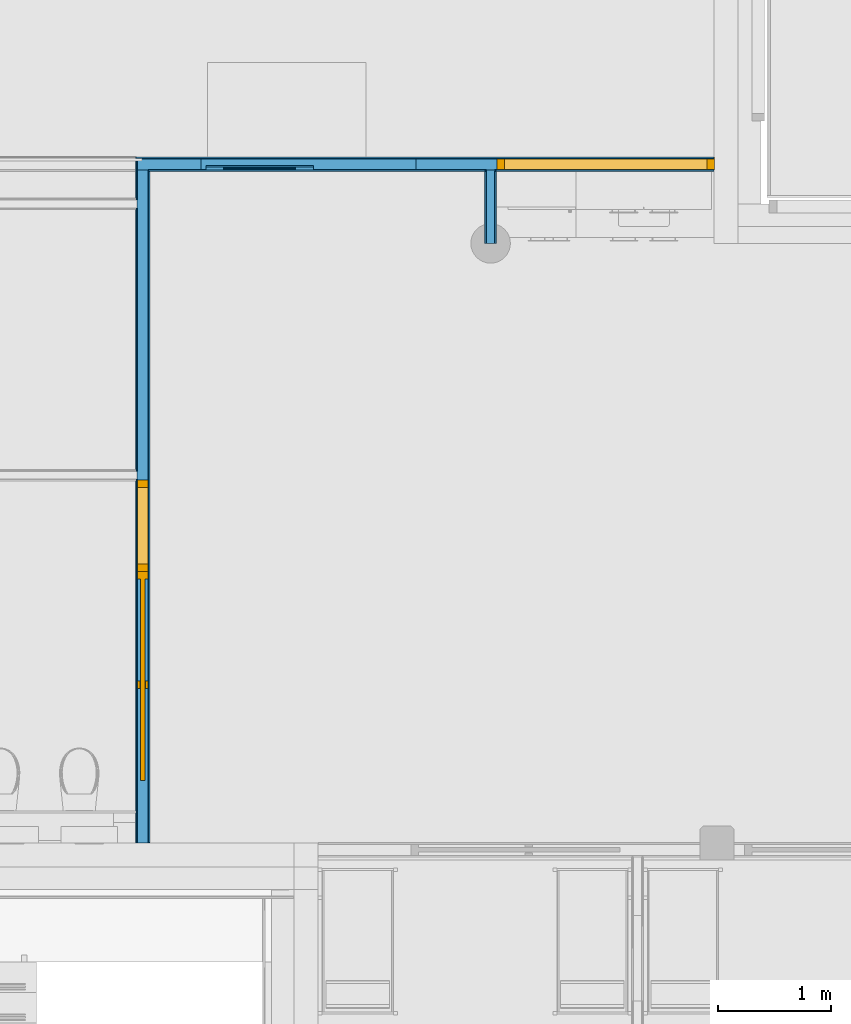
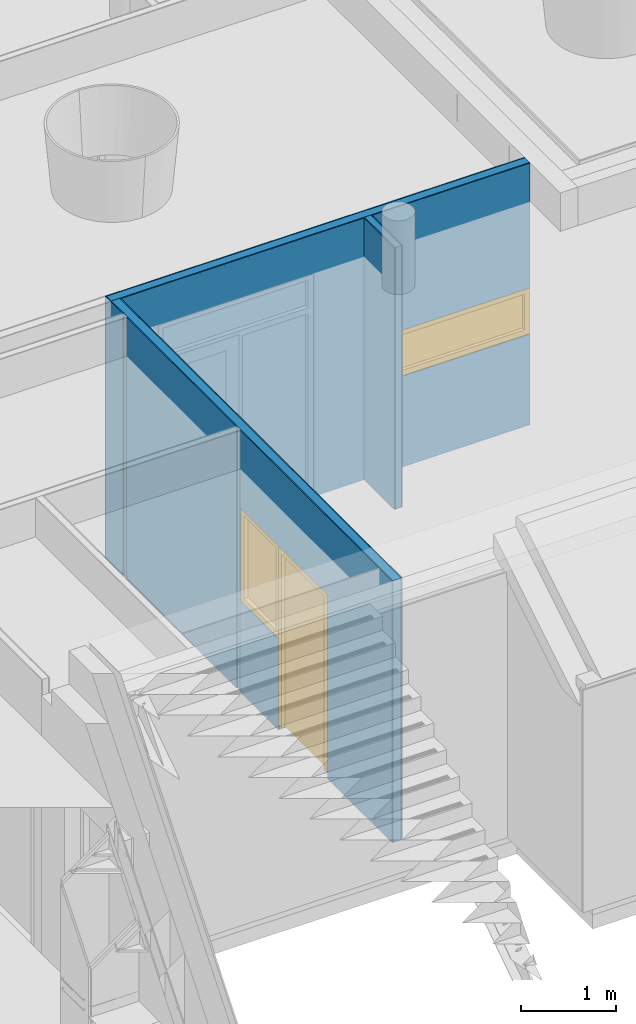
# One storey, part 73 of 167: 12 building element parts, 2 windows, 1 door, 4 openings, 4 elements without a shape of their own.
"""IFC2X3 building model written with IfcOpenShell, lengths in millimetres."""

from ifc_helpers import new_model, entity, si_unit, converted_unit, derived_unit, money_unit, direction, frame, origin_with_axes, place, context, subcontext, project, spatial, open_shell, faceted_brep, surface_model, material, type_object, element, fill, aggregate, save


model = new_model("IFC2X3")

# Units and contexts
model_context = context("Model", 3, precision=0.01, world=origin_with_axes(), true_north=direction((0.0, 1.0)))
plan_context = context("Plan", 3, precision=0.01, world=origin_with_axes(), true_north=direction((0.0, 1.0)))
body_context = subcontext(model_context, "Body", "Model", "MODEL_VIEW")
ifc_project = project(units=[si_unit("LENGTHUNIT", "METRE", prefix="MILLI"), si_unit("AREAUNIT", "SQUARE_METRE"), si_unit("VOLUMEUNIT", "CUBIC_METRE"), converted_unit("PLANEANGLEUNIT", "DEGREE", entity("IfcPlaneAngleMeasure", 0.0174532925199), si_unit("PLANEANGLEUNIT", "RADIAN"), dimensions=[0, 0, 0, 0, 0, 0, 0]), si_unit("SOLIDANGLEUNIT", "STERADIAN"), money_unit("EUR"), converted_unit("TIMEUNIT", "Year", entity("IfcTimeMeasure", 31556926.0), si_unit("TIMEUNIT", "SECOND"), dimensions=[0, 0, 1, 0, 0, 0, 0]), si_unit("MASSUNIT", "GRAM", prefix="KILO"), si_unit("THERMODYNAMICTEMPERATUREUNIT", "DEGREE_CELSIUS"), si_unit("LUMINOUSINTENSITYUNIT", "LUMEN"), si_unit("ENERGYUNIT", "JOULE", prefix="MEGA"), derived_unit("THERMALCONDUCTANCEUNIT", [(si_unit("POWERUNIT", "WATT"), 1), (si_unit("LENGTHUNIT", "METRE"), -1), (si_unit("THERMODYNAMICTEMPERATUREUNIT", "KELVIN"), -1)]), derived_unit("SPECIFICHEATCAPACITYUNIT", [(si_unit("ENERGYUNIT", "JOULE"), 1), (si_unit("MASSUNIT", "GRAM", prefix="KILO"), -1), (si_unit("THERMODYNAMICTEMPERATUREUNIT", "KELVIN"), -1)]), derived_unit("MASSDENSITYUNIT", [(si_unit("MASSUNIT", "GRAM", prefix="KILO"), 1), (si_unit("VOLUMEUNIT", "CUBIC_METRE"), -1)])], contexts=[model_context, plan_context])

# Site, building, storey
site_placement = place(None, origin_with_axes())
site = spatial("IfcSite", under=ifc_project, at=site_placement, Name="Site", CompositionType="ELEMENT")
building_placement = place(site_placement, origin_with_axes())
building = spatial("IfcBuilding", under=site, at=building_placement, Name="Naam gebouw", CompositionType="ELEMENT")
storey_placement = place(building_placement, origin_with_axes())
storey = spatial("IfcBuildingStorey", under=building, at=storey_placement, Name="Begane grond", CompositionType="ELEMENT", Elevation=0.0)

# Window
window_style = type_object("IfcWindowStyle", Name="R1 24", ConstructionType="NOTDEFINED", OperationType="SINGLE_PANEL", ParameterTakesPrecedence=False, Sizeable=False)
wall_1_placement = place(storey_placement, frame((38189.0, 37300.0, -100.0), z_axis=(0.0, 0.0, 1.0), x_axis=(-1.0, 0.0, 0.0)))
opening_1_placement = place(wall_1_placement, frame((1171.37399409, 0.0, 1200.0), z_axis=(0.0, 0.0, 1.0), x_axis=(1.0, 0.0, 0.0)))
window_1_placement = place(opening_1_placement, frame((-962.5, 0.0, 0.0), z_axis=(0.0, 0.0, 1.0), x_axis=(1.0, 0.0, 0.0)))
window_1 = element("IfcWindow", 1, at=window_1_placement, inside=storey, type_object=window_style, Name="31_Raam_Hi-49", ObjectType="WINDOW", OverallHeight=595.0, OverallWidth=1925.0, context=body_context, shape_type="SurfaceModel", body=[
    faceted_brep([(1858.0, -62.5, 528.0), (1925.0, -62.5, 528.0), (1925.0, 51.5, 528.0), (1858.0, 51.5, 528.0), (1858.0, -62.5, 67.0), (1925.0, -62.5, 67.0), (1925.0, 51.5, 67.0), (1858.0, 51.5, 67.0)], [[[0, 1, 2, 3]], [[0, 4, 5, 1]], [[1, 5, 6, 2]], [[3, 2, 6, 7]], [[4, 0, 3, 7]], [[5, 4, 7, 6]]]),
    faceted_brep([(67.0, -62.5, 67.0), (0.0, -62.5, 67.0), (0.0, 51.5, 67.0), (67.0, 51.5, 67.0), (67.0, -62.5, 528.0), (0.0, -62.5, 528.0), (0.0, 51.5, 528.0), (67.0, 51.5, 528.0)], [[[0, 1, 2, 3]], [[0, 4, 5, 1]], [[1, 5, 6, 2]], [[3, 2, 6, 7]], [[4, 0, 3, 7]], [[5, 4, 7, 6]]]),
    faceted_brep([(1858.0, -62.5, 67.0), (1925.0, -62.5, 67.0), (1925.0, 51.5, 67.0), (1858.0, 51.5, 67.0), (67.0, -62.5, 67.0), (0.0, -62.5, 67.0), (0.0, -62.5, 0.0), (1925.0, -62.5, 0.0), (1925.0, 51.5, 0.0), (0.0, 51.5, 0.0), (0.0, 51.5, 67.0), (67.0, 51.5, 67.0)], [[[0, 1, 2, 3]], [[0, 4, 5, 6, 7, 1]], [[1, 7, 8, 2]], [[3, 2, 8, 9, 10, 11]], [[4, 0, 3, 11]], [[5, 4, 11, 10]], [[6, 5, 10, 9]], [[7, 6, 9, 8]]]),
    faceted_brep([(67.0, -62.5, 528.0), (0.0, -62.5, 528.0), (0.0, 51.5, 528.0), (67.0, 51.5, 528.0), (1858.0, -62.5, 528.0), (1925.0, -62.5, 528.0), (1925.0, -62.5, 595.0), (0.0, -62.5, 595.0), (0.0, 51.5, 595.0), (1925.0, 51.5, 595.0), (1925.0, 51.5, 528.0), (1858.0, 51.5, 528.0)], [[[0, 1, 2, 3]], [[0, 4, 5, 6, 7, 1]], [[1, 7, 8, 2]], [[3, 2, 8, 9, 10, 11]], [[4, 0, 3, 11]], [[5, 4, 11, 10]], [[6, 5, 10, 9]], [[7, 6, 9, 8]]]),
    surface_model("IfcShellBasedSurfaceModel", [(1858.0, -12.5, 67.0), (1858.0, -12.5, 528.0), (67.0, -12.5, 528.0), (67.0, -12.5, 67.0)], [open_shell([[[0, 1, 2, 3]]])]),
    surface_model("IfcShellBasedSurfaceModel", [(1858.0, 7.5, 67.0), (67.0, 7.5, 67.0), (67.0, 7.5, 528.0), (1858.0, 7.5, 528.0)], [open_shell([[[0, 1, 2, 3]]])]),
])

wall_2_placement = place(storey_placement, frame((32925.2814665, 37300.0, -100.0), z_axis=(0.0, 0.0, 1.0), x_axis=(0.0, -1.0, 0.0)))
opening_3_placement = place(wall_2_placement, frame((3195.1259561, 0.0, 1200.0), z_axis=(0.0, 0.0, 1.0), x_axis=(1.0, 0.0, 0.0)))
window_2_placement = place(opening_3_placement, frame((-404.874501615, 0.0, 0.0), z_axis=(0.0, 0.0, 1.0), x_axis=(1.0, 0.0, 0.0)))
window_2 = element("IfcWindow", 2, at=window_2_placement, inside=storey, type_object=window_style, Name="31_Raam_Hi-38", ObjectType="WINDOW", OverallHeight=1200.0, OverallWidth=809.749, context=body_context, shape_type="SurfaceModel", body=[
    faceted_brep([(742.749003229, -51.5, 1133.0), (809.749003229, -51.5, 1133.0), (809.749003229, 62.5, 1133.0), (742.749003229, 62.5, 1133.0), (742.749003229, -51.5, 67.0), (809.749003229, -51.5, 67.0), (809.749003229, 62.5, 67.0), (742.749003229, 62.5, 67.0)], [[[0, 1, 2, 3]], [[0, 4, 5, 1]], [[1, 5, 6, 2]], [[3, 2, 6, 7]], [[4, 0, 3, 7]], [[5, 4, 7, 6]]]),
    faceted_brep([(67.0, -51.5, 67.0), (0.0, -51.5, 67.0), (0.0, 62.5, 67.0), (67.0, 62.5, 67.0), (67.0, -51.5, 1133.0), (0.0, -51.5, 1133.0), (0.0, 62.5, 1133.0), (67.0, 62.5, 1133.0)], [[[0, 1, 2, 3]], [[0, 4, 5, 1]], [[1, 5, 6, 2]], [[3, 2, 6, 7]], [[4, 0, 3, 7]], [[5, 4, 7, 6]]]),
    faceted_brep([(742.749003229, -51.5, 67.0), (809.749003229, -51.5, 67.0), (809.749003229, 62.5, 67.0), (742.749003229, 62.5, 67.0), (67.0, -51.5, 67.0), (0.0, -51.5, 67.0), (0.0, -51.5, 0.0), (809.749003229, -51.5, 0.0), (809.749003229, 62.5, 0.0), (0.0, 62.5, 0.0), (0.0, 62.5, 67.0), (67.0, 62.5, 67.0)], [[[0, 1, 2, 3]], [[0, 4, 5, 6, 7, 1]], [[1, 7, 8, 2]], [[3, 2, 8, 9, 10, 11]], [[4, 0, 3, 11]], [[5, 4, 11, 10]], [[6, 5, 10, 9]], [[7, 6, 9, 8]]]),
    faceted_brep([(67.0, -51.5, 1133.0), (0.0, -51.5, 1133.0), (0.0, 62.5, 1133.0), (67.0, 62.5, 1133.0), (742.749003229, -51.5, 1133.0), (809.749003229, -51.5, 1133.0), (809.749003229, -51.5, 1200.0), (0.0, -51.5, 1200.0), (0.0, 62.5, 1200.0), (809.749003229, 62.5, 1200.0), (809.749003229, 62.5, 1133.0), (742.749003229, 62.5, 1133.0)], [[[0, 1, 2, 3]], [[0, 4, 5, 6, 7, 1]], [[1, 7, 8, 2]], [[3, 2, 8, 9, 10, 11]], [[4, 0, 3, 11]], [[5, 4, 11, 10]], [[6, 5, 10, 9]], [[7, 6, 9, 8]]]),
    surface_model("IfcShellBasedSurfaceModel", [(742.749003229, -1.5, 67.0), (742.749003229, -1.5, 1133.0), (67.0, -1.5, 1133.0), (67.0, -1.5, 67.0)], [open_shell([[[0, 1, 2, 3]]])]),
    surface_model("IfcShellBasedSurfaceModel", [(742.749003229, 18.5, 67.0), (67.0, 18.5, 67.0), (67.0, 18.5, 1133.0), (742.749003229, 18.5, 1133.0)], [open_shell([[[0, 1, 2, 3]]])]),
])

# Door
door_style_1 = type_object("IfcDoorStyle", Name="DS1 in wand 24", ConstructionType="NOTDEFINED", OperationType="USERDEFINED", ParameterTakesPrecedence=False, Sizeable=False)
opening_4_placement = place(wall_2_placement, frame((4117.00045771, 0.0, 100.0), z_axis=(0.0, 0.0, 1.0), x_axis=(1.0, 0.0, 0.0)))
door_1_placement = place(opening_4_placement, frame((-517.0, 0.0, 0.0), z_axis=(0.0, 0.0, 1.0), x_axis=(1.0, 0.0, 0.0)))
door_1 = element("IfcDoor", 3, at=door_1_placement, inside=storey, type_object=door_style_1, Name="32_Deur_Si-05s", ObjectType="DOOR", OverallHeight=2300.0, OverallWidth=1034.0, context=body_context, shape_type="Brep", body=[
    faceted_brep([(0.0, 62.5, 0.0), (67.0, 62.5, 0.0), (67.0, -62.5, 0.0), (0.0, -62.5, 0.0), (0.0, 62.5, 2233.0), (67.0, 62.5, 2233.0), (67.0, -62.5, 2233.0), (0.0, -62.5, 2233.0)], [[[0, 1, 2, 3]], [[0, 4, 5, 1]], [[1, 5, 6, 2]], [[3, 2, 6, 7]], [[4, 0, 3, 7]], [[5, 4, 7, 6]]]),
    faceted_brep([(967.0, 25.0, 2233.0), (1034.0, 25.0, 2233.0), (1034.0, 62.5, 2233.0), (967.0, 62.5, 2233.0), (1034.0, 25.0, 0.0), (967.0, 25.0, 0.0), (1034.0, 62.5, 0.0), (967.0, 62.5, 0.0)], [[[0, 1, 2, 3]], [[4, 1, 0, 5]], [[1, 4, 6, 2]], [[7, 3, 2, 6]], [[5, 0, 3, 7]], [[4, 5, 7, 6]]]),
    faceted_brep([(1034.0, -25.0, 0.0), (1034.0, -25.0, 2233.0), (1034.0, -62.5, 2233.0), (1034.0, -62.5, 0.0), (967.0, -25.0, 2233.0), (967.0, -25.0, 0.0), (967.0, -62.5, 2233.0), (967.0, -62.5, 0.0)], [[[0, 1, 2, 3]], [[4, 1, 0, 5]], [[1, 4, 6, 2]], [[2, 6, 7, 3]], [[5, 0, 3, 7]], [[4, 5, 7, 6]]]),
    faceted_brep([(0.0, 62.5, 2300.0), (0.0, 62.5, 2233.0), (0.0, -62.5, 2233.0), (0.0, -62.5, 2300.0), (1034.0, 62.5, 2300.0), (1034.0, 62.5, 2233.0), (967.0, 62.5, 2233.0), (67.0, 62.5, 2233.0), (67.0, -62.5, 2233.0), (967.0, -62.5, 2233.0), (1034.0, -62.5, 2233.0), (1034.0, -62.5, 2300.0)], [[[0, 1, 2, 3]], [[0, 4, 5, 6, 7, 1]], [[1, 7, 8, 2]], [[3, 2, 8, 9, 10, 11]], [[4, 0, 3, 11]], [[5, 4, 11, 10]], [[6, 5, 10, 9]], [[7, 6, 9, 8]]]),
    faceted_brep([(1848.0, 20.0, 0.0), (1848.0, -20.0, 0.0), (67.0, -20.0, 0.0), (67.0, 20.0, 0.0), (1848.0, 20.0, 2233.0), (1848.0, -20.0, 2233.0), (67.0, -20.0, 2233.0), (67.0, 20.0, 2233.0)], [[[0, 1, 2, 3]], [[4, 5, 1, 0]], [[1, 5, 6, 2]], [[3, 2, 6, 7]], [[0, 3, 7, 4]], [[7, 6, 5, 4]]]),
])

# Wall, opening
wall_type_1 = type_object("IfcWallType", Name="_TenW_22_Metalstud 125 enkel gipsvezelplaat  125", PredefinedType="NOTDEFINED")
wall_1 = element("IfcWall", 4, at=wall_1_placement, inside=storey, type_object=wall_type_1, Name="22_Wand_Wand-x")
opening_1 = element("IfcOpeningElement", 5, at=opening_1_placement, cuts=wall_1, Name="31_Raam_Hi-49", context=body_context, shape_type="Brep", body=[
    faceted_brep([(-962.5, -250.0, 0.0), (-962.5, -250.0, 595.0), (-962.5, 125.0, 595.0), (-962.5, 125.0, 0.0), (962.5, -250.0, 0.0), (962.5, -250.0, 595.0), (962.5, 125.0, 595.0), (962.5, 125.0, 0.0)], [[[0, 1, 2, 3]], [[0, 4, 5, 1]], [[1, 5, 6, 2]], [[3, 2, 6, 7]], [[4, 0, 3, 7]], [[5, 4, 7, 6]]]),
])

fill(opening_1, window_1)

# Opening
opening_2_placement = place(wall_1_placement, frame((3798.99993764, 0.0, 100.0), z_axis=(0.0, 0.0, 1.0), x_axis=(1.0, 0.0, 0.0)))
opening_2 = element("IfcOpeningElement", 6, at=opening_2_placement, cuts=wall_1, Name="32_Deur_Hi-43", context=body_context, shape_type="Brep", body=[
    faceted_brep([(950.0, 125.0, 0.0), (950.0, 125.0, 2800.0), (950.0, -250.0, 2800.0), (950.0, -250.0, 0.0), (-950.0, 125.0, 0.0), (-950.0, 125.0, 2800.0), (-950.0, -250.0, 2800.0), (-950.0, -250.0, 0.0)], [[[0, 1, 2, 3]], [[0, 4, 5, 1]], [[1, 5, 6, 2]], [[3, 2, 6, 7]], [[4, 0, 3, 7]], [[5, 4, 7, 6]]]),
])

# Building element part
ifc_material_1 = material(Name="Gipsplaat watervast")
building_element_part_1_placement = place(wall_1_placement, origin_with_axes())
building_element_part_1 = element("IfcBuildingElementPart", 7, at=building_element_part_1_placement, material=ifc_material_1, Name="Gipsplaat watervast", context=body_context, shape_type="Brep", body=[
    faceted_brep([(4748.99993764, 50.0, 2900.0), (4748.99993764, 50.0, 100.0), (4748.99993764, 50.0, 30.0), (5213.71853355, 50.0, 30.0), (5213.71853355, 50.0, 3405.0), (2226.5, 50.0, 3405.0), (2226.5, 50.0, 30.0), (2848.99993764, 50.0, 30.0), (2848.99993764, 50.0, 100.0), (2848.99993764, 50.0, 2900.0), (4748.99993764, 62.5, 2900.0), (4748.99993764, 62.5, 100.0), (4748.99993764, 62.5, 30.0), (5213.71853355, 62.5, 30.0), (5213.71853355, 62.5, 3405.0), (2226.5, 62.5, 3405.0), (2226.5, 62.5, 30.0), (2848.99993764, 62.5, 30.0), (2848.99993764, 62.5, 100.0), (2848.99993764, 62.5, 2900.0)], [[[0, 1, 2, 3, 4, 5, 6, 7, 8, 9]], [[1, 0, 10, 11]], [[1, 11, 12, 2]], [[12, 13, 3, 2]], [[4, 3, 13, 14]], [[5, 4, 14, 15]], [[15, 16, 6, 5]], [[7, 6, 16, 17]], [[18, 8, 7, 17]], [[9, 8, 18, 19]], [[0, 9, 19, 10]], [[19, 18, 17, 16, 15, 14, 13, 12, 11, 10]]]),
    faceted_brep([(214.0, 62.5, 1795.0), (214.0, 50.0, 1795.0), (214.0, 50.0, 3405.0), (214.0, 62.5, 3405.0), (2133.87399409, 50.0, 1795.0), (2133.87399409, 62.5, 1795.0), (2133.87399409, 50.0, 1200.0), (214.0, 50.0, 1200.0), (214.0, 50.0, 30.0), (2151.5, 50.0, 30.0), (2151.5, 50.0, 3405.0), (2151.5, 62.5, 3405.0), (2151.5, 62.5, 30.0), (214.0, 62.5, 30.0), (214.0, 62.5, 1200.0), (2133.87399409, 62.5, 1200.0)], [[[0, 1, 2, 3]], [[4, 1, 0, 5]], [[6, 7, 8, 9, 10, 2, 1, 4]], [[2, 10, 11, 3]], [[5, 0, 3, 11, 12, 13, 14, 15]], [[6, 4, 5, 15]], [[14, 7, 6, 15]], [[7, 14, 13, 8]], [[8, 13, 12, 9]], [[10, 9, 12, 11]]]),
])

ifc_material_2 = material(Name="Isolatie - Steenwol zacht")
building_element_part_2_placement = place(wall_1_placement, origin_with_axes())
building_element_part_2 = element("IfcBuildingElementPart", 8, at=building_element_part_2_placement, material=ifc_material_2, Name="Isolatie - Steenwol zacht", context=body_context, shape_type="Brep", body=[
    faceted_brep([(4748.99993764, -50.0, 2900.0), (4748.99993764, -50.0, 100.0), (4748.99993764, -50.0, 30.0), (5313.71853355, -50.0, 30.0), (5313.71853355, -50.0, 3405.0), (214.0, -50.0, 3405.0), (214.0, -50.0, 1795.0), (2133.87399409, -50.0, 1795.0), (2133.87399409, -50.0, 1200.0), (214.0, -50.0, 1200.0), (214.0, -50.0, 30.0), (2848.99993764, -50.0, 30.0), (2848.99993764, -50.0, 100.0), (2848.99993764, -50.0, 2900.0), (4748.99993764, 50.0, 2900.0), (4748.99993764, 50.0, 100.0), (4748.99993764, 50.0, 30.0), (5313.71853355, 50.0, 30.0), (5313.71853355, 50.0, 3405.0), (214.0, 50.0, 3405.0), (214.0, 50.0, 1795.0), (2133.87399409, 50.0, 1795.0), (2133.87399409, 50.0, 1200.0), (214.0, 50.0, 1200.0), (214.0, 50.0, 30.0), (2848.99993764, 50.0, 30.0), (2848.99993764, 50.0, 100.0), (2848.99993764, 50.0, 2900.0)], [[[0, 1, 2, 3, 4, 5, 6, 7, 8, 9, 10, 11, 12, 13]], [[1, 0, 14, 15]], [[1, 15, 16, 2]], [[17, 3, 2, 16]], [[3, 17, 18, 4]], [[4, 18, 19, 5]], [[6, 5, 19, 20]], [[6, 20, 21, 7]], [[7, 21, 22, 8]], [[9, 8, 22, 23]], [[23, 24, 10, 9]], [[10, 24, 25, 11]], [[26, 12, 11, 25]], [[13, 12, 26, 27]], [[0, 13, 27, 14]], [[27, 26, 25, 24, 23, 22, 21, 20, 19, 18, 17, 16, 15, 14]]]),
])

building_element_part_3_placement = place(wall_1_placement, origin_with_axes())
building_element_part_3 = element("IfcBuildingElementPart", 9, at=building_element_part_3_placement, material=ifc_material_1, Name="Gipsplaat watervast", context=body_context, shape_type="Brep", body=[
    faceted_brep([(4748.99993764, -62.5, 2900.0), (4748.99993764, -62.5, 100.0), (4748.99993764, -62.5, 30.0), (5326.21853355, -62.5, 30.0), (5326.21853355, -62.5, 3405.0), (214.0, -62.5, 3405.0), (214.0, -62.5, 1795.0), (2133.87399409, -62.5, 1795.0), (2133.87399409, -62.5, 1200.0), (214.0, -62.5, 1200.0), (214.0, -62.5, 30.0), (2848.99993764, -62.5, 30.0), (2848.99993764, -62.5, 100.0), (2848.99993764, -62.5, 2900.0), (4748.99993764, -50.0, 2900.0), (4748.99993764, -50.0, 100.0), (4748.99993764, -50.0, 30.0), (5326.21853355, -50.0, 30.0), (5326.21853355, -50.0, 3405.0), (214.0, -50.0, 3405.0), (214.0, -50.0, 1795.0), (2133.87399409, -50.0, 1795.0), (2133.87399409, -50.0, 1200.0), (214.0, -50.0, 1200.0), (214.0, -50.0, 30.0), (2848.99993764, -50.0, 30.0), (2848.99993764, -50.0, 100.0), (2848.99993764, -50.0, 2900.0)], [[[0, 1, 2, 3, 4, 5, 6, 7, 8, 9, 10, 11, 12, 13]], [[1, 0, 14, 15]], [[1, 15, 16, 2]], [[17, 3, 2, 16]], [[3, 17, 18, 4]], [[4, 18, 19, 5]], [[6, 5, 19, 20]], [[6, 20, 21, 7]], [[7, 21, 22, 8]], [[9, 8, 22, 23]], [[23, 24, 10, 9]], [[10, 24, 25, 11]], [[26, 12, 11, 25]], [[13, 12, 26, 27]], [[0, 13, 27, 14]], [[27, 26, 25, 24, 23, 22, 21, 20, 19, 18, 17, 16, 15, 14]]]),
])

aggregate(wall_1, [building_element_part_1, building_element_part_2, building_element_part_3])

# Door
door_style_2 = type_object("IfcDoorStyle", Name="D1 bl zl1-b 24", ConstructionType="NOTDEFINED", OperationType="SINGLE_SWING_RIGHT", ParameterTakesPrecedence=False, Sizeable=False)
door_2_placement = place(opening_2_placement, frame((-950.0, 0.0, 0.0), z_axis=(0.0, 0.0, 1.0), x_axis=(1.0, 0.0, 0.0)))
door_2 = element("IfcDoor", 10, at=door_2_placement, inside=storey, type_object=door_style_2, Name="32_Deur_Hi-43", ObjectType="DOOR", OverallHeight=2800.0, OverallWidth=1900.0)

fill(opening_2, door_2)

# Building element part
building_element_part_4_placement = place(door_2_placement, origin_with_axes())
building_element_part_4 = element("IfcBuildingElementPart", 11, at=building_element_part_4_placement, context=body_context, shape_type="SurfaceModel", body=[
    faceted_brep([(0.0, 51.5, 0.0), (67.0, 51.5, 0.0), (67.0, -62.5, 0.0), (0.0, -62.5, 0.0), (0.0, 51.5, 2733.0), (67.0, 51.5, 2733.0), (67.0, 51.5, 2375.0), (67.0, 51.5, 2300.0), (67.0, 51.5, 67.0), (67.0, -62.5, 67.0), (67.0, -62.5, 2300.0), (67.0, -62.5, 2375.0), (67.0, -62.5, 2733.0), (0.0, -62.5, 2733.0)], [[[0, 1, 2, 3]], [[0, 4, 5, 6, 7, 8, 1]], [[1, 8, 9, 2]], [[3, 2, 9, 10, 11, 12, 13]], [[4, 0, 3, 13]], [[5, 4, 13, 12]], [[6, 5, 12, 11]], [[7, 6, 11, 10]], [[8, 7, 10, 9]]]),
    faceted_brep([(933.0, 11.5, 0.0), (933.0, 11.5, 2300.0), (933.0, -62.5, 2300.0), (933.0, -62.5, 0.0), (908.0, 11.5, 2300.0), (908.0, 11.5, 0.0), (908.0, 51.5, 2300.0), (866.0, 51.5, 2300.0), (866.0, -62.5, 2300.0), (866.0, -62.5, 0.0), (866.0, -62.5, 67.0), (866.0, 51.5, 0.0), (908.0, 51.5, 0.0), (866.0, 51.5, 67.0)], [[[0, 1, 2, 3]], [[4, 1, 0, 5]], [[4, 6, 7, 8, 2, 1]], [[9, 3, 2, 8, 10]], [[5, 0, 3, 9, 11, 12]], [[6, 4, 5, 12]], [[6, 12, 11, 13, 7]], [[13, 10, 8, 7]], [[11, 9, 10, 13]]]),
    faceted_brep([(67.0, 51.5, 67.0), (67.0, 51.5, 0.0), (67.0, -62.5, 0.0), (67.0, -62.5, 67.0), (866.0, 51.5, 67.0), (866.0, 51.5, 0.0), (866.0, -62.5, 0.0), (866.0, -62.5, 67.0)], [[[0, 1, 2, 3]], [[0, 4, 5, 1]], [[1, 5, 6, 2]], [[3, 2, 6, 7]], [[4, 0, 3, 7]], [[5, 4, 7, 6]]]),
    faceted_brep([(1858.0, 51.5, 2325.0), (1833.0, 51.5, 2325.0), (1833.0, 51.5, 2375.0), (1833.0, 51.5, 2733.0), (1900.0, 51.5, 2733.0), (1900.0, 51.5, 0.0), (1858.0, 51.5, 0.0), (1858.0, 11.5, 2325.0), (1833.0, 11.5, 2325.0), (1833.0, 11.5, 0.0), (1833.0, -62.5, 0.0), (1833.0, -62.5, 2300.0), (1833.0, -62.5, 2375.0), (1833.0, -62.5, 2733.0), (1900.0, -62.5, 2733.0), (1900.0, -62.5, 0.0), (1858.0, 11.5, 0.0)], [[[0, 1, 2, 3, 4, 5, 6]], [[1, 0, 7, 8]], [[8, 9, 10, 11, 12, 2, 1]], [[2, 12, 13, 3]], [[3, 13, 14, 4]], [[4, 14, 15, 5]], [[16, 6, 5, 15, 10, 9]], [[0, 6, 16, 7]], [[16, 9, 8, 7]], [[12, 11, 10, 15, 14, 13]]]),
    faceted_brep([(0.0, 51.5, 2800.0), (0.0, 51.5, 2733.0), (0.0, -62.5, 2733.0), (0.0, -62.5, 2800.0), (1900.0, 51.5, 2800.0), (1900.0, 51.5, 2733.0), (1833.0, 51.5, 2733.0), (67.0, 51.5, 2733.0), (67.0, -62.5, 2733.0), (1833.0, -62.5, 2733.0), (1900.0, -62.5, 2733.0), (1900.0, -62.5, 2800.0)], [[[0, 1, 2, 3]], [[0, 4, 5, 6, 7, 1]], [[1, 7, 8, 2]], [[3, 2, 8, 9, 10, 11]], [[4, 0, 3, 11]], [[5, 4, 11, 10]], [[6, 5, 10, 9]], [[7, 6, 9, 8]]]),
    faceted_brep([(1833.0, 11.5, 2325.0), (1833.0, 51.5, 2325.0), (1833.0, 51.5, 2375.0), (1833.0, -62.5, 2375.0), (1833.0, -62.5, 2300.0), (1833.0, 11.5, 2300.0), (908.0, 11.5, 2325.0), (908.0, 51.5, 2325.0), (908.0, 51.5, 2300.0), (866.0, 51.5, 2300.0), (67.0, 51.5, 2300.0), (67.0, 51.5, 2375.0), (67.0, -62.5, 2375.0), (933.0, -62.5, 2300.0), (67.0, -62.5, 2300.0), (866.0, -62.5, 2300.0), (933.0, 11.5, 2300.0), (908.0, 11.5, 2300.0)], [[[0, 1, 2, 3, 4, 5]], [[1, 0, 6, 7]], [[7, 8, 9, 10, 11, 2, 1]], [[11, 12, 3, 2]], [[13, 4, 3, 12, 14, 15]], [[16, 5, 4, 13]], [[0, 5, 16, 17, 6]], [[8, 7, 6, 17]], [[17, 16, 13, 15, 9, 8]], [[9, 15, 14, 10]], [[10, 14, 12, 11]]]),
    surface_model("IfcShellBasedSurfaceModel", [(67.0, -2.5, 2375.0), (67.0, -2.5, 2733.0), (1833.0, -2.5, 2733.0), (1833.0, -2.5, 2375.0)], [open_shell([[[0, 1, 2, 3]]])]),
    surface_model("IfcShellBasedSurfaceModel", [(67.0, -14.5, 2375.0), (1833.0, -14.5, 2375.0), (1833.0, -14.5, 2733.0), (67.0, -14.5, 2733.0)], [open_shell([[[0, 1, 2, 3]]])]),
    surface_model("IfcShellBasedSurfaceModel", [(67.0, -2.5, 67.0), (67.0, -2.5, 2300.0), (866.0, -2.5, 2300.0), (866.0, -2.5, 67.0)], [open_shell([[[0, 1, 2, 3]]])]),
    surface_model("IfcShellBasedSurfaceModel", [(67.0, -14.5, 67.0), (866.0, -14.5, 67.0), (866.0, -14.5, 2300.0), (67.0, -14.5, 2300.0)], [open_shell([[[0, 1, 2, 3]]])]),
])

ifc_material_3 = material(Name="_TenW_24_Hout - Multiplex")
building_element_part_5_placement = place(door_2_placement, origin_with_axes())
building_element_part_5 = element("IfcBuildingElementPart", 12, at=building_element_part_5_placement, material=ifc_material_3, Name="_TenW_24_Hout - Multiplex", context=body_context, shape_type="Brep", body=[
    faceted_brep([(1858.0, 51.5, 1218.09782609), (1858.0, 24.8333333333, 1218.09782609), (908.0, 24.8333333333, 1218.09782609), (908.0, 51.5, 1218.09782609), (1858.0, 51.5, 2325.0), (1858.0, 24.8333333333, 2325.0), (908.0, 24.8333333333, 2325.0), (1699.66666667, 24.8333333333, 1364.67391304), (1066.33333333, 24.8333333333, 1364.67391304), (1066.33333333, 24.8333333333, 2173.36956522), (1699.66666667, 24.8333333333, 2173.36956522), (908.0, 51.5, 2325.0), (1699.66666667, 51.5, 1364.67391304), (1699.66666667, 51.5, 2173.36956522), (1066.33333333, 51.5, 2173.36956522), (1066.33333333, 51.5, 1364.67391304)], [[[0, 1, 2, 3]], [[4, 5, 1, 0]], [[1, 5, 6, 2], [7, 8, 9, 10]], [[3, 2, 6, 11]], [[0, 3, 11, 4], [12, 13, 14, 15]], [[11, 6, 5, 4]], [[15, 8, 7, 12]], [[14, 9, 8, 15]], [[13, 10, 9, 14]], [[12, 7, 10, 13]]]),
    faceted_brep([(1858.0, 51.5, 0.0), (1858.0, 24.8333333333, 0.0), (908.0, 24.8333333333, 0.0), (908.0, 51.5, 0.0), (1858.0, 51.5, 1213.04347826), (1858.0, 24.8333333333, 1213.04347826), (908.0, 24.8333333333, 1213.04347826), (908.0, 51.5, 1213.04347826)], [[[0, 1, 2, 3]], [[4, 5, 1, 0]], [[1, 5, 6, 2]], [[3, 2, 6, 7]], [[0, 3, 7, 4]], [[7, 6, 5, 4]]]),
    faceted_brep([(1858.0, 24.8333333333, 1200.20126027), (1858.0, 11.5, 1200.20126027), (908.0, 11.5, 1200.20126027), (908.0, 24.8333333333, 1200.20126027), (1858.0, 24.8333333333, 1250.74473853), (1858.0, 11.5, 1250.74473853), (908.0, 11.5, 1250.74473853), (908.0, 24.8333333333, 1250.74473853)], [[[0, 1, 2, 3]], [[4, 5, 1, 0]], [[1, 5, 6, 2]], [[3, 2, 6, 7]], [[0, 3, 7, 4]], [[7, 6, 5, 4]]]),
])

ifc_material_4 = material(Name="Glas")
building_element_part_6_placement = place(door_2_placement, origin_with_axes())
building_element_part_6 = element("IfcBuildingElementPart", 13, at=building_element_part_6_placement, material=ifc_material_4, Name="Glas", context=body_context, shape_type="Brep", body=[
    faceted_brep([(1699.66666667, 44.8333333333, 1364.67391304), (1699.66666667, 31.5, 1364.67391304), (1066.33333333, 31.5, 1364.67391304), (1066.33333333, 44.8333333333, 1364.67391304), (1699.66666667, 44.8333333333, 2173.36956522), (1699.66666667, 31.5, 2173.36956522), (1066.33333333, 31.5, 2173.36956522), (1066.33333333, 44.8333333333, 2173.36956522)], [[[0, 1, 2, 3]], [[4, 5, 1, 0]], [[1, 5, 6, 2]], [[3, 2, 6, 7]], [[0, 3, 7, 4]], [[7, 6, 5, 4]]]),
])

aggregate(door_2, [building_element_part_4, building_element_part_5, building_element_part_6])

# Wall, opening
wall_2 = element("IfcWall", 14, at=wall_2_placement, inside=storey, type_object=wall_type_1, Name="22_Wand_Wand-x")
opening_3 = element("IfcOpeningElement", 15, at=opening_3_placement, cuts=wall_2, Name="31_Raam_Hi-38", context=body_context, shape_type="Brep", body=[
    faceted_brep([(-404.874501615, 250.0, 1200.0), (-404.874501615, 250.0, 0.0), (-404.874501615, -125.0, 0.0), (-404.874501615, -125.0, 1200.0), (404.874501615, 250.0, 1200.0), (404.874501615, 250.0, 0.0), (404.874501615, -125.0, 0.0), (404.874501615, -125.0, 1200.0)], [[[0, 1, 2, 3]], [[0, 4, 5, 1]], [[1, 5, 6, 2]], [[3, 2, 6, 7]], [[4, 0, 3, 7]], [[5, 4, 7, 6]]]),
])

fill(opening_3, window_2)

# Opening
opening_4 = element("IfcOpeningElement", 16, at=opening_4_placement, cuts=wall_2, Name="32_Deur_Si-05s", context=body_context, shape_type="Brep", body=[
    faceted_brep([(517.0, -125.0, 2300.0), (517.0, -125.0, 0.0), (517.0, 250.0, 0.0), (517.0, 250.0, 2300.0), (-517.0, -125.0, 2300.0), (-517.0, -125.0, 0.0), (-517.0, 250.0, 0.0), (-517.0, 250.0, 2300.0)], [[[0, 1, 2, 3]], [[0, 4, 5, 1]], [[1, 5, 6, 2]], [[3, 2, 6, 7]], [[4, 0, 3, 7]], [[5, 4, 7, 6]]]),
    faceted_brep([(1355.0, 25.0, 0.0), (1355.0, 25.0, 2233.0), (1355.0, -25.0, 2233.0), (1355.0, -25.0, 0.0), (517.0, 25.0, 0.0), (517.0, 25.0, 2233.0), (517.0, -25.0, 2233.0), (517.0, -25.0, 0.0)], [[[0, 1, 2, 3]], [[0, 4, 5, 1]], [[1, 5, 6, 2]], [[3, 2, 6, 7]], [[4, 0, 3, 7]], [[5, 4, 7, 6]]]),
])

fill(opening_4, door_1)

# Building element part
building_element_part_7_placement = place(wall_2_placement, origin_with_axes())
building_element_part_7 = element("IfcBuildingElementPart", 17, at=building_element_part_7_placement, material=ifc_material_1, Name="Gipsplaat watervast", context=body_context, shape_type="Brep", body=[
    faceted_brep([(3600.00045771, 49.999999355, 1200.0), (3600.00045771, 62.5000000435, 1200.0), (2790.25145448, 62.5000000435, 1200.0), (2790.25145448, 49.999999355, 1200.0), (3600.00045771, 62.5000013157, 100.0), (3600.00045771, 49.9999993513, 100.0), (4634.00045771, 62.5000013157, 100.0), (4634.00045771, 62.5000013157, 2400.0), (3600.00045771, 62.5000000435, 2400.0), (2790.25145448, 62.5000000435, 2400.0), (3600.00045771, 62.500000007, 30.0), (62.5, 62.5000000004, 30.0), (62.5, 62.5000000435, 3405.0), (6000.00022618, 62.500001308, 3405.0), (6000.00022618, 62.5000000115, 30.0), (4634.00045771, 62.500000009, 30.0), (2790.25145448, 49.999999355, 2400.0), (4634.00045771, 49.9999993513, 2400.0), (4634.00045771, 49.9999993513, 100.0), (4634.00045771, 49.9999999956, 30.0), (6000.00022618, 49.9999999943, 30.0), (6000.00022618, 49.999999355, 3405.0), (62.5, 49.9999999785, 3405.0), (62.5, 49.9999999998, 30.0), (3600.00045771, 49.9999999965, 30.0), (3600.00045771, 49.999999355, 2400.0)], [[[0, 1, 2, 3]], [[4, 1, 0, 5]], [[6, 7, 8, 9, 2, 1, 4, 10, 11, 12, 13, 14, 15]], [[9, 16, 3, 2]], [[17, 18, 19, 20, 21, 22, 23, 24, 5, 0, 3, 16, 25]], [[4, 5, 24, 10]], [[7, 6, 18, 17]], [[8, 7, 17, 25, 16, 9]], [[23, 11, 10, 24]], [[11, 23, 22, 12]], [[22, 21, 13, 12]], [[20, 14, 13, 21]], [[14, 20, 19, 15]], [[18, 6, 15, 19]]]),
])

building_element_part_8_placement = place(wall_2_placement, origin_with_axes())
building_element_part_8 = element("IfcBuildingElementPart", 18, at=building_element_part_8_placement, material=ifc_material_2, Name="Isolatie - Steenwol zacht", context=body_context, shape_type="Brep", body=[
    faceted_brep([(4634.00045771, -25.0, 2333.0), (4634.00045771, -25.0, 100.0), (4634.00045771, -50.0000010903, 100.0), (4634.00045771, -50.0000010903, 2400.0), (4634.00045771, 49.9999993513, 2400.0), (4634.00045771, 49.9999993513, 100.0), (4634.00045771, 25.0, 100.0), (4634.00045771, 25.0, 2333.0), (5472.00045771, -25.0, 2333.0), (5472.00045771, -25.0, 100.0), (4634.00045771, 49.9999999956, 30.0), (4634.00045771, -50.0000000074, 30.0), (2790.25145448, -50.000001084, 1200.0), (2790.25145448, -50.000001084, 2400.0), (6000.00022618, -50.0000000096, 30.0), (6000.00022618, -50.000001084, 3405.0), (50.0, -50.0000000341, 3405.0), (50.0, -50.0000000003, 30.0), (3600.00045771, -50.0000000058, 30.0), (3600.00045771, -50.0000010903, 100.0), (3600.00045771, -50.000001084, 1200.0), (2790.25145448, 49.9999999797, 2400.0), (6000.00022618, 49.999999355, 3405.0), (6000.00022618, 49.9999999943, 30.0), (2790.25145448, 49.9999999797, 1200.0), (3600.00045771, 49.9999999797, 1200.0), (3600.00045771, 49.9999993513, 100.0), (3600.00045771, 49.9999999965, 30.0), (50.0, 49.9999999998, 30.0), (50.0, 49.9999999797, 3405.0), (5472.00045771, 25.0, 100.0), (5472.00045771, 25.0, 2333.0)], [[[0, 1, 2, 3, 4, 5, 6, 7]], [[1, 0, 8, 9]], [[1, 6, 5, 10, 11, 2]], [[12, 13, 3, 2, 11, 14, 15, 16, 17, 18, 19, 20]], [[3, 13, 21, 4]], [[22, 23, 10, 5, 4, 21, 24, 25, 26, 27, 28, 29]], [[7, 6, 30, 31]], [[0, 7, 31, 8]], [[31, 30, 9, 8]], [[6, 1, 9, 30]], [[14, 11, 10, 23]], [[13, 12, 24, 21]], [[23, 22, 15, 14]], [[15, 22, 29, 16]], [[17, 16, 29, 28]], [[28, 27, 18, 17]], [[19, 18, 27, 26]], [[25, 20, 19, 26]], [[25, 24, 12, 20]]]),
])

building_element_part_9_placement = place(wall_2_placement, origin_with_axes())
building_element_part_9 = element("IfcBuildingElementPart", 19, at=building_element_part_9_placement, material=ifc_material_1, Name="Gipsplaat watervast", context=body_context, shape_type="Brep", body=[
    faceted_brep([(3600.00045771, -62.5, 1200.0), (3600.00045771, -50.0000004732, 1200.0), (2790.25145448, -50.0000004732, 1200.0), (2790.25145448, -62.5, 1200.0), (3600.00045771, -50.0000010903, 100.0), (3600.00045771, -62.5, 100.0), (4634.00045771, -50.0000010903, 100.0), (4634.00045771, -50.0000010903, 2400.0), (3600.00045771, -50.0000004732, 2400.0), (2790.25145448, -50.0000004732, 2400.0), (3600.00045771, -50.0000000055, 30.0), (2787.50046543, -50.0000000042, 30.0), (2787.50046543, -50.0000004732, 3405.0), (6000.00022618, -50.000001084, 3405.0), (6000.00022618, -50.0000000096, 30.0), (4634.00045771, -50.0000000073, 30.0), (2790.25145448, -62.5, 2400.0), (4634.00045771, -62.5, 2400.0), (4634.00045771, -62.5, 100.0), (4634.00045771, -62.5, 30.0), (6000.00022618, -62.5, 30.0), (6000.00022618, -62.5, 3405.0), (2787.50046543, -62.5, 3405.0), (2787.50046543, -62.5, 30.0), (3600.00045771, -62.5, 30.0), (3600.00045771, -62.5, 2400.0)], [[[0, 1, 2, 3]], [[4, 1, 0, 5]], [[6, 7, 8, 9, 2, 1, 4, 10, 11, 12, 13, 14, 15]], [[9, 16, 3, 2]], [[17, 18, 19, 20, 21, 22, 23, 24, 5, 0, 3, 16, 25]], [[4, 5, 24, 10]], [[7, 6, 18, 17]], [[8, 7, 17, 25, 16, 9]], [[23, 11, 10, 24]], [[11, 23, 22, 12]], [[22, 21, 13, 12]], [[20, 14, 13, 21]], [[14, 20, 19, 15]], [[18, 6, 15, 19]]]),
    faceted_brep([(387.5, -62.5, 3405.0), (387.5, -50.0000000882, 3405.0), (387.5, -50.0000000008, 30.0), (387.5, -62.5, 30.0), (2712.50046543, -50.0000004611, 3405.0), (2712.50046543, -62.5, 3405.0), (2712.50046543, -50.0000000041, 30.0), (2712.50046543, -62.5, 30.0)], [[[0, 1, 2, 3]], [[4, 1, 0, 5]], [[1, 4, 6, 2]], [[3, 2, 6, 7]], [[5, 0, 3, 7]], [[4, 5, 7, 6]]]),
    faceted_brep([(-50.0, -62.5, 3405.0), (-50.0, -50.000000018, 3405.0), (-50.0, -50.0000000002, 30.0), (-50.0, -62.5, 30.0), (312.5, -50.0000000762, 3405.0), (312.5, -62.5, 3405.0), (312.5, -50.0000000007, 30.0), (312.5, -62.5, 30.0)], [[[0, 1, 2, 3]], [[4, 1, 0, 5]], [[1, 4, 6, 2]], [[3, 2, 6, 7]], [[5, 0, 3, 7]], [[4, 5, 7, 6]]]),
])

aggregate(wall_2, [building_element_part_7, building_element_part_8, building_element_part_9])

# Wall, building element parts
wall_type_2 = type_object("IfcWallType", Name="_TenW_22_Metalstud 100 enkel gipsvezelplaat 100", PredefinedType="NOTDEFINED")
wall_3_placement = place(storey_placement, frame((36000.0, 36600.0000021, -100.0), z_axis=(0.0, 0.0, 1.0), x_axis=(0.0, 1.0, 0.0)))
wall_3 = element("IfcWall", 20, at=wall_3_placement, inside=storey, type_object=wall_type_2, Name="22_Wand_Wand-x")
building_element_part_10_placement = place(wall_3_placement, origin_with_axes())
building_element_part_10 = element("IfcBuildingElementPart", 21, at=building_element_part_10_placement, material=ifc_material_1, Name="Gipsplaat watervast", context=body_context, shape_type="Brep", body=[
    faceted_brep([(637.499997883, 50.0, 3405.0), (637.499997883, 37.5, 3405.0), (637.499997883, 37.5, 30.0), (637.499997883, 50.0, 30.0), (0.0, 37.5, 3405.0), (0.0, 50.0, 3405.0), (0.0, 37.5, 30.0), (0.0, 50.0, 30.0)], [[[0, 1, 2, 3]], [[4, 1, 0, 5]], [[1, 4, 6, 2]], [[3, 2, 6, 7]], [[5, 0, 3, 7]], [[4, 5, 7, 6]]]),
])
building_element_part_11_placement = place(wall_3_placement, origin_with_axes())
building_element_part_11 = element("IfcBuildingElementPart", 22, at=building_element_part_11_placement, material=ifc_material_2, Name="Isolatie - Steenwol zacht", context=body_context, shape_type="Brep", body=[
    faceted_brep([(649.999997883, 37.5, 3405.0), (649.999997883, -37.5, 3405.0), (649.999997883, -37.5, 30.0), (649.999997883, 37.5, 30.0), (0.0, -37.5, 3405.0), (0.0, 37.5, 3405.0), (0.0, -37.5, 30.0), (0.0, 37.5, 30.0)], [[[0, 1, 2, 3]], [[4, 1, 0, 5]], [[1, 4, 6, 2]], [[3, 2, 6, 7]], [[5, 0, 3, 7]], [[4, 5, 7, 6]]]),
])
building_element_part_12_placement = place(wall_3_placement, origin_with_axes())
building_element_part_12 = element("IfcBuildingElementPart", 23, at=building_element_part_12_placement, material=ifc_material_1, Name="Gipsplaat watervast", context=body_context, shape_type="Brep", body=[
    faceted_brep([(637.499997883, -37.5, 3405.0), (637.499997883, -50.0, 3405.0), (637.499997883, -50.0, 30.0), (637.499997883, -37.5, 30.0), (0.0, -50.0, 3405.0), (0.0, -37.5, 3405.0), (0.0, -50.0, 30.0), (0.0, -37.5, 30.0)], [[[0, 1, 2, 3]], [[4, 1, 0, 5]], [[1, 4, 6, 2]], [[3, 2, 6, 7]], [[5, 0, 3, 7]], [[4, 5, 7, 6]]]),
])
aggregate(wall_3, [building_element_part_10, building_element_part_11, building_element_part_12])

save(model, "model.ifc")
